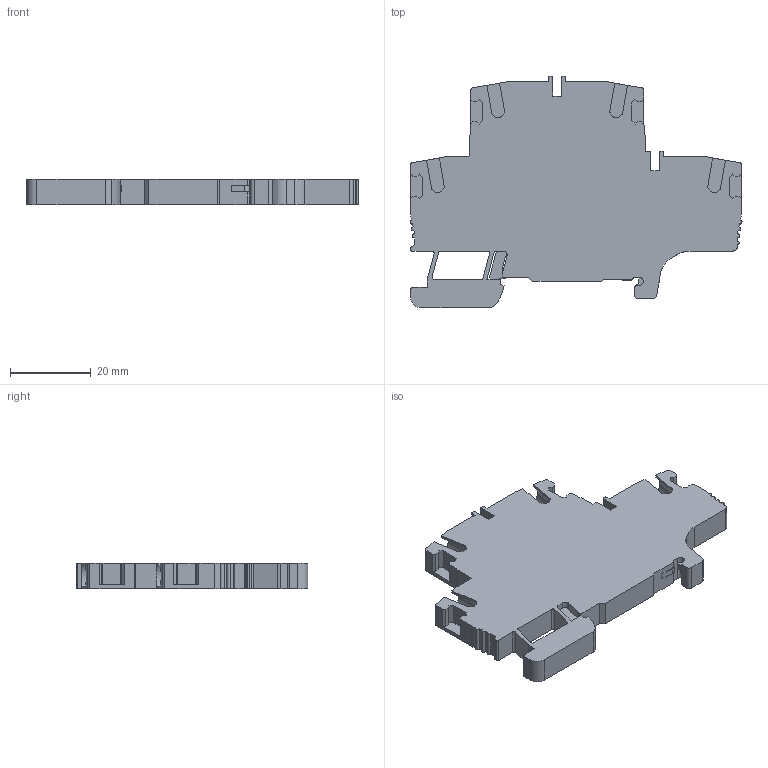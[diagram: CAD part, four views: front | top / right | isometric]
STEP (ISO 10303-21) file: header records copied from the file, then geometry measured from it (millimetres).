
FILE_DESCRIPTION(('Creo Elements/Direct Modeling STEP Export'),'2;1');
FILE_NAME('EFDE.4.stp','2018-11-08T14:08:45',(''),(''),'Creo Elements/Direct Modeling STEP processor for AP214 (Solid Model)','Creo Elements/Direct Modeling 20.1 10-Mar-2018 (C) Parametric Technology GmbH','');
FILE_SCHEMA(('AUTOMOTIVE_DESIGN { 1 0 10303 214 1 1 1 1 }'));
Length unit declared in the file: millimetre
Products named in the file (1): EFDE.4
Bounding box: 82.06 x 57.2 x 6.2 mm (x, y, z)
Volume: 17995.8 mm3; surface area: 9455.7 mm2
Topology: 1 solids, 1 shells, 318 faces, 924 edges, 616 vertices
Faces by surface type: plane 234, cylinder 84
Entity records: 10826 total; most frequent: ORIENTED_EDGE 1848, CARTESIAN_POINT 1813, DIRECTION 1672, EDGE_CURVE 924, VECTOR 722, LINE 722, VERTEX_POINT 616, AXIS2_PLACEMENT_3D 475
